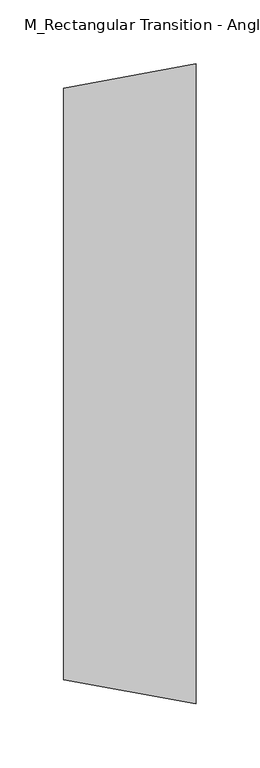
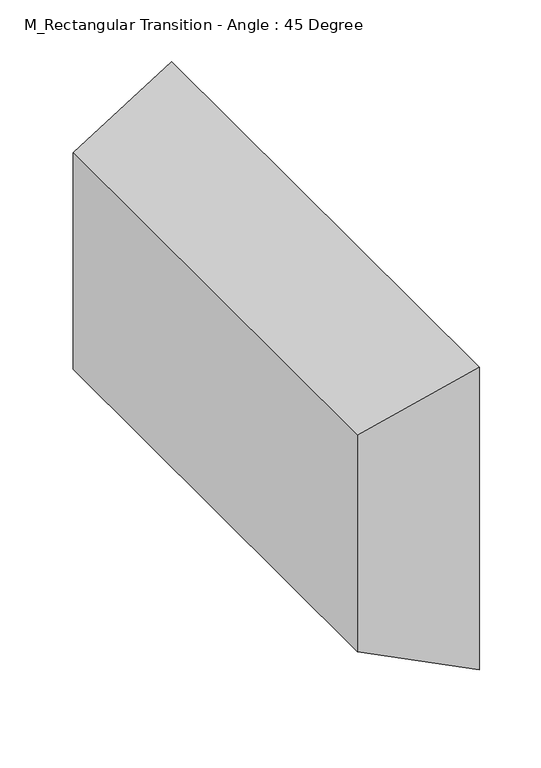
"""IFC4 building model written with IfcOpenShell, lengths in millimetres: duct fitting geometry, M_Rectangular Transition - Angle : 45 Degree."""

from ifc_helpers import new_model, si_unit, origin, place, context, project, spatial, faceted_brep, source, transform, mapped, element, save


def m_rectangular_transition_angle_45_degree_5a11b24e(model_context):
    return source(origin(), model_context, "Body", "Brep", [
        faceted_brep([(103.4792288, -250.0, 150.0002436), (103.4792288, -250.0, -149.9997564), (103.4792288, 250.0, -149.9997564), (103.4792288, 250.0, 150.0002436), (0.0, -230.9375, 107.1375), (0.0, 230.9375, 107.1375), (0.0, 230.9375, -107.1375), (0.0, -230.9375, -107.1375)], [[[0, 1, 2, 3]], [[4, 5, 6, 7]], [[4, 7, 1, 0]], [[7, 6, 2, 1]], [[6, 5, 3, 2]], [[5, 4, 0, 3]]]),
    ])


if __name__ == "__main__":
    model = new_model("IFC4")
    model_context = context("Model", 3, world=origin())
    ifc_project = project(units=[si_unit("LENGTHUNIT", "METRE", prefix="MILLI")], contexts=[model_context])
    site = spatial("IfcSite", under=ifc_project)
    building = spatial("IfcBuilding", under=site)
    placement = place(None, origin())
    m_rectangular_transition_angle_45_degree_shape = m_rectangular_transition_angle_45_degree_5a11b24e(model_context)
    element("IfcDuctFitting", 1, ObjectType="M_Rectangular Transition - Angle : 45 Degree", at=placement, inside=building, context=model_context, shape_type="MappedRepresentation", body=[
        mapped(m_rectangular_transition_angle_45_degree_shape, transform((0.0, 0.0, 0.0), x_axis=(1.0, 0.0, 0.0), y_axis=(0.0, 1.0, 0.0), z_axis=(0.0, 0.0, 1.0))),
    ])
    save(model, "model.ifc")
